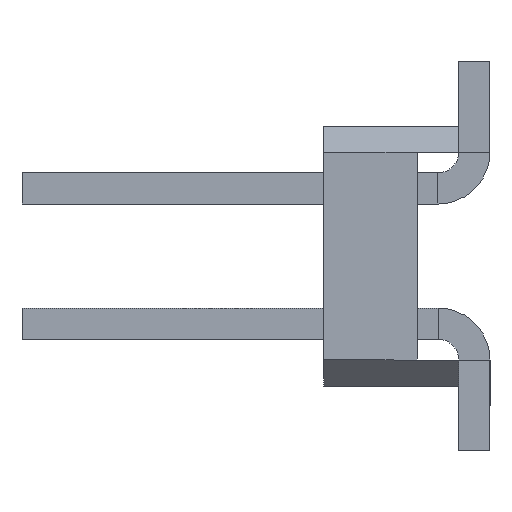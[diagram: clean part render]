
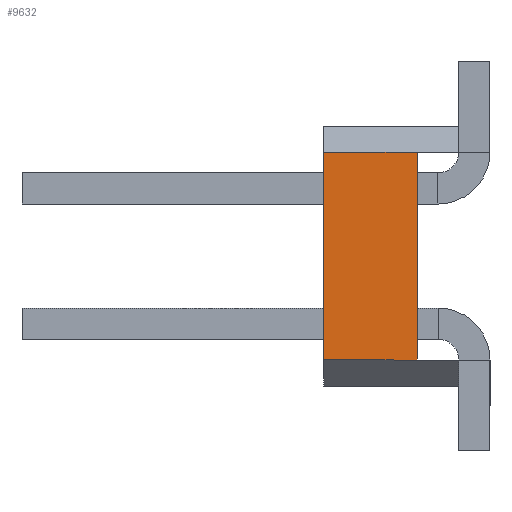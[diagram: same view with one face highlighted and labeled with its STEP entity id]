
A CAD part, left-side view. The second image highlights one B-rep face of the part: STEP entity #9632.
In plain terms, the highlighted planar face has unit normal (-1, 0, 0).
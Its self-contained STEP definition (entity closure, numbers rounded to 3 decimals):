
#239 = ORIENTED_EDGE ( 'NONE', *, *, #12647, .F. ) ;
#250 = VERTEX_POINT ( 'NONE', #9579 ) ;
#253 = FACE_OUTER_BOUND ( 'NONE', #12078, .T. ) ;
#1418 = DIRECTION ( 'NONE',  ( 0., 0., -1. ) ) ;
#1800 = DIRECTION ( 'NONE',  ( 0., 0., 1. ) ) ;
#2037 = VERTEX_POINT ( 'NONE', #3127 ) ;
#3084 = ORIENTED_EDGE ( 'NONE', *, *, #9023, .F. ) ;
#3127 = CARTESIAN_POINT ( 'NONE',  ( -1.27, 2.6, 2. ) ) ;
#3772 = ORIENTED_EDGE ( 'NONE', *, *, #12453, .T. ) ;
#3971 = CARTESIAN_POINT ( 'NONE',  ( -1.27, 2.6, -2.5 ) ) ;
#4015 = LINE ( 'NONE', #13351, #5690 ) ;
#4684 = CARTESIAN_POINT ( 'NONE',  ( -1.27, 0.8, 2. ) ) ;
#4700 = DIRECTION ( 'NONE',  ( 0., -1., 0. ) ) ;
#5549 = PLANE ( 'NONE',  #11282 ) ;
#5690 = VECTOR ( 'NONE', #4700, 1000. ) ;
#7307 = VECTOR ( 'NONE', #7466, 1000. ) ;
#7466 = DIRECTION ( 'NONE',  ( 0., 1., 0. ) ) ;
#7497 = LINE ( 'NONE', #12797, #7307 ) ;
#7984 = ORIENTED_EDGE ( 'NONE', *, *, #8495, .T. ) ;
#8495 = EDGE_CURVE ( 'NONE', #12630, #250, #4015, .T. ) ;
#8697 = DIRECTION ( 'NONE',  ( 0., 0., -1. ) ) ;
#9023 = EDGE_CURVE ( 'NONE', #11252, #250, #10313, .T. ) ;
#9579 = CARTESIAN_POINT ( 'NONE',  ( -1.27, 0.8, -2. ) ) ;
#9632 = ADVANCED_FACE ( 'NONE', ( #253 ), #5549, .F. ) ;
#9815 = CARTESIAN_POINT ( 'NONE',  ( -1.27, 2.6, -2.5 ) ) ;
#10313 = LINE ( 'NONE', #4684, #10652 ) ;
#10502 = CARTESIAN_POINT ( 'NONE',  ( -1.27, 0.8, 2. ) ) ;
#10652 = VECTOR ( 'NONE', #1418, 1000. ) ;
#11065 = LINE ( 'NONE', #3971, #12233 ) ;
#11252 = VERTEX_POINT ( 'NONE', #10502 ) ;
#11282 = AXIS2_PLACEMENT_3D ( 'NONE', #9815, #11996, #8697 ) ;
#11454 = CARTESIAN_POINT ( 'NONE',  ( -1.27, 2.6, -2. ) ) ;
#11996 = DIRECTION ( 'NONE',  ( 1., 0., 0. ) ) ;
#12078 = EDGE_LOOP ( 'NONE', ( #7984, #3084, #3772, #239 ) ) ;
#12233 = VECTOR ( 'NONE', #1800, 1000. ) ;
#12453 = EDGE_CURVE ( 'NONE', #11252, #2037, #7497, .T. ) ;
#12630 = VERTEX_POINT ( 'NONE', #11454 ) ;
#12647 = EDGE_CURVE ( 'NONE', #12630, #2037, #11065, .T. ) ;
#12797 = CARTESIAN_POINT ( 'NONE',  ( -1.27, 2.6, 2. ) ) ;
#13351 = CARTESIAN_POINT ( 'NONE',  ( -1.27, 2.6, -2. ) ) ;
